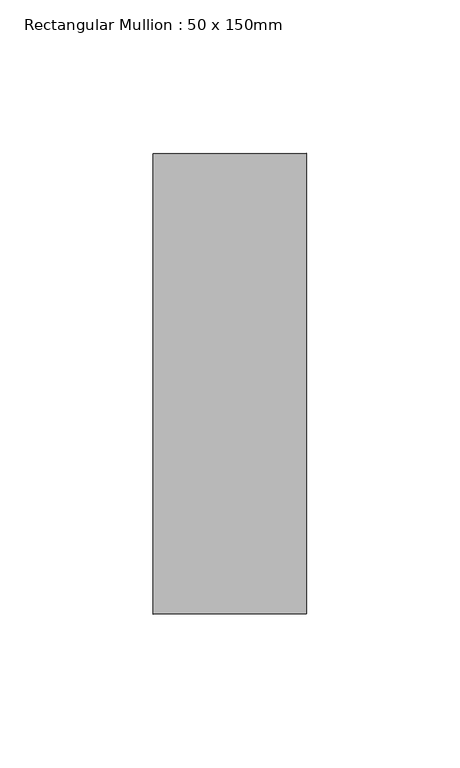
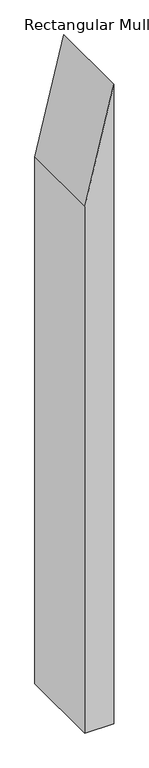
"""IFC4 building model written with IfcOpenShell, lengths in millimetres: member geometry, Rectangular Mullion : 50 x 150mm."""

import ifcopenshell
import ifcopenshell.guid

model = None  # the IFC model being written
_history = None  # IfcOwnerHistory: only IFC2X3 demands one
_inside = {}  # id of a spatial element -> (the spatial element, [elements in it])
_under = {}  # id of a project, library or spatial element -> (it, [spatial elements below it])
_declared = {}  # id of a project -> (the project, [libraries it declares])
_typed = {}  # id of a type object -> (the type object, [elements of that type])
_made_of = {}  # id of a material, layer set ... -> (it, [elements and type objects made of it])


def new_model(schema):
    """Start an empty IFC model of exactly this schema.

    Asked for "IFC4X3", IfcOpenShell would pick the latest addendum, in which some entities
    have other attributes; the version numbers below select the first issue.
    IFC2X3 requires an IfcOwnerHistory on every rooted entity: one is made here for all.
    """
    global model, _history
    if schema == "IFC4X3":
        model = ifcopenshell.file(schema_version=(4, 3, 0, 0))
    else:
        model = ifcopenshell.file(schema=schema)
    _inside.clear()
    _under.clear()
    _declared.clear()
    _typed.clear()
    _made_of.clear()
    _history = None
    if model.schema == "IFC2X3":
        org = make("IfcOrganization", Name="unknown")
        user = make(
            "IfcPersonAndOrganization",
            ThePerson=make("IfcPerson", FamilyName="unknown"),
            TheOrganization=org,
        )
        app = make(
            "IfcApplication",
            ApplicationDeveloper=org,
            Version="unknown",
            ApplicationFullName="unknown",
            ApplicationIdentifier="unknown",
        )
        _history = make(
            "IfcOwnerHistory",
            OwningUser=user,
            OwningApplication=app,
            ChangeAction="ADDED",
            CreationDate=0,
        )
    return model


def make(cls, **values):
    """One entity of the class cls with the attributes given. An attribute that is None is left unset."""
    return model.create_entity(
        cls, **{name: value for name, value in values.items() if value is not None}
    )


def rooted(cls, **values):
    """An entity with a GlobalId (a new one), such as an element, a storey or a relation."""
    return make(cls, GlobalId=ifcopenshell.guid.new(), OwnerHistory=_history, **values)


def si_unit(unit_type, name, prefix=None):
    """IfcSIUnit, for example si_unit("LENGTHUNIT", "METRE", prefix="MILLI")."""
    return make("IfcSIUnit", UnitType=unit_type, Prefix=prefix, Name=name)


def assignment(units):
    """IfcUnitAssignment: the units of a project."""
    return None if units is None else make("IfcUnitAssignment", Units=units)


def point(xyz):
    """IfcCartesianPoint."""
    return None if xyz is None else make("IfcCartesianPoint", Coordinates=xyz)


def direction(xyz):
    """IfcDirection."""
    return None if xyz is None else make("IfcDirection", DirectionRatios=xyz)


def frame(location, z_axis=None, x_axis=None):
    """IfcAxis2Placement3D, a coordinate frame: its origin and axes. An axis left out is left unset."""
    return make(
        "IfcAxis2Placement3D",
        Location=point(location),
        Axis=direction(z_axis),
        RefDirection=direction(x_axis),
    )


def origin():
    """The frame at (0, 0, 0) with its axes left unset."""
    return frame((0.0, 0.0, 0.0))


def place(relative_to, where):
    """IfcLocalPlacement: puts the frame where relative to a parent placement (None: the world)."""
    return make(
        "IfcLocalPlacement", PlacementRelTo=relative_to, RelativePlacement=where
    )


def context(
    kind, dimensions, precision=None, world=None, true_north=None, identifier=None
):
    """IfcGeometricRepresentationContext, for example the 3D "Model" context."""
    return make(
        "IfcGeometricRepresentationContext",
        ContextIdentifier=identifier,
        ContextType=kind,
        CoordinateSpaceDimension=dimensions,
        Precision=precision,
        WorldCoordinateSystem=world,
        TrueNorth=true_north,
    )


def project(units=None, contexts=None):
    """IfcProject with its units and contexts."""
    return rooted(
        "IfcProject",
        Name="project",
        RepresentationContexts=contexts,
        UnitsInContext=assignment(units),
    )


def spatial(cls, under=None, at=None, **own):
    """A site, building, storey or space (cls), placed at a placement, below another one or the project."""
    s = rooted(cls, ObjectPlacement=at, **own)
    if under is not None:
        _under.setdefault(under.id(), (under, []))[1].append(s)
    return s


def polyline(points):
    """IfcPolyline through the points."""
    return make("IfcPolyline", Points=[point(p) for p in points])


def outline(outer, holes=None, kind="AREA"):
    """IfcArbitraryClosedProfileDef: a profile drawn as a closed curve; with holes, ...WithVoids."""
    if holes is None:
        return make("IfcArbitraryClosedProfileDef", ProfileType=kind, OuterCurve=outer)
    return make(
        "IfcArbitraryProfileDefWithVoids",
        ProfileType=kind,
        OuterCurve=outer,
        InnerCurves=holes,
    )


def extrude(swept, where, along, depth):
    """IfcExtrudedAreaSolid: the profile swept, set in the frame where, extruded along a direction by depth."""
    return make(
        "IfcExtrudedAreaSolid",
        SweptArea=swept,
        Position=where,
        ExtrudedDirection=direction(along),
        Depth=depth,
    )


def shape(context_of_items, identifier, shape_type, items):
    """IfcShapeRepresentation: the items that make up one representation, for example the "Body"."""
    return make(
        "IfcShapeRepresentation",
        ContextOfItems=context_of_items,
        RepresentationIdentifier=identifier,
        RepresentationType=shape_type,
        Items=items,
    )


def source(mapping_origin, context_of_items, identifier, shape_type, items):
    """IfcRepresentationMap: a shape defined once, which mapped items show again and again."""
    return make(
        "IfcRepresentationMap",
        MappingOrigin=mapping_origin,
        MappedRepresentation=shape(context_of_items, identifier, shape_type, items),
    )


def transform(
    local_origin,
    x_axis=None,
    y_axis=None,
    z_axis=None,
    scale=None,
    scale2=None,
    scale3=None,
    uniform=True,
):
    """IfcCartesianTransformationOperator3D, or its non-uniform kind. x_axis, y_axis, z_axis: its Axis1, 2, 3."""
    if uniform:
        return make(
            "IfcCartesianTransformationOperator3D",
            Axis1=direction(x_axis),
            Axis2=direction(y_axis),
            LocalOrigin=point(local_origin),
            Scale=scale,
            Axis3=direction(z_axis),
        )
    return make(
        "IfcCartesianTransformationOperator3DnonUniform",
        Axis1=direction(x_axis),
        Axis2=direction(y_axis),
        LocalOrigin=point(local_origin),
        Scale=scale,
        Axis3=direction(z_axis),
        Scale2=scale2,
        Scale3=scale3,
    )


def mapped(mapping_source, mapping_target):
    """IfcMappedItem: shows the shape of a source again, moved by a transform."""
    return make(
        "IfcMappedItem", MappingSource=mapping_source, MappingTarget=mapping_target
    )


def made_of(thing, what):
    """Note that an element or type object is made of a material, layer set ...; save() writes the relation."""
    if what is not None:
        _made_of.setdefault(what.id(), (what, []))[1].append(thing)
    return thing


def element(
    cls,
    number,
    at=None,
    inside=None,
    cuts=None,
    type_object=None,
    material=None,
    context=None,
    identifier="Body",
    shape_type=None,
    held_by="IfcProductDefinitionShape",
    body=None,
    shapes=None,
    **own,
):
    """One element of the class cls, such as IfcWall. Its Tag is "e" and its number.

    at: its placement. inside: the storey or other place that contains it. cuts: it is an
    opening in that element (IfcRelVoidsElement). A single representation is given by context,
    identifier, shape_type and body (its items); several are given by shapes. held_by: the class
    of the entity that holds the representations. save() writes the other relations.
    """
    e = rooted(cls, Tag="e%d" % number, ObjectPlacement=at, **own)
    if body is not None:
        shapes = [shape(context, identifier, shape_type, body)]
    if shapes is not None:
        e.Representation = make(held_by, Representations=shapes)
    if inside is not None:
        _inside.setdefault(inside.id(), (inside, []))[1].append(e)
    if cuts is not None:
        rooted(
            "IfcRelVoidsElement", RelatingBuildingElement=cuts, RelatedOpeningElement=e
        )
    if type_object is not None:
        _typed.setdefault(type_object.id(), (type_object, []))[1].append(e)
    return made_of(e, material)


def aggregate(whole, parts):
    """IfcRelAggregates: a whole, such as a stair, and the parts it consists of."""
    return rooted("IfcRelAggregates", RelatingObject=whole, RelatedObjects=parts)


def save(model, path):
    """Write the relations noted so far, then the file.

    IfcRelAggregates (storeys below a building ...), IfcRelContainedInSpatialStructure (elements
    in a storey), IfcRelDefinesByType, IfcRelAssociatesMaterial and IfcRelDeclares: one each for
    every whole, place, type object, material and project.
    """
    for whole, parts in _under.values():
        aggregate(whole, parts)
    for where, things in _inside.values():
        rooted(
            "IfcRelContainedInSpatialStructure",
            RelatedElements=things,
            RelatingStructure=where,
        )
    for kind, things in _typed.values():
        rooted("IfcRelDefinesByType", RelatedObjects=things, RelatingType=kind)
    for what, things in _made_of.values():
        rooted("IfcRelAssociatesMaterial", RelatedObjects=things, RelatingMaterial=what)
    for by, libraries in _declared.values():
        rooted("IfcRelDeclares", RelatingContext=by, RelatedDefinitions=libraries)
    model.write(path)


def rectangular_mullion_50_x_150mm_ba0926fd(model_context):
    return source(origin(), model_context, "Body", "SweptSolid", [
        extrude(outline(polyline([(-109.4367532, 25.0), (-316.4022366, -25.0), (-1282.1043265, -25.0), (-1282.1043265, 25.0), (-109.4367532, 25.0)])), frame((0.0, -75.0, 0.0), z_axis=(0.0, 1.0, 0.0), x_axis=(0.0, 0.0, 1.0)), (0.0, 0.0, 1.0), 150.0),
    ])


if __name__ == "__main__":
    model = new_model("IFC4")
    model_context = context("Model", 3, world=origin())
    ifc_project = project(units=[si_unit("LENGTHUNIT", "METRE", prefix="MILLI")], contexts=[model_context])
    site = spatial("IfcSite", under=ifc_project)
    building = spatial("IfcBuilding", under=site)
    placement = place(None, origin())
    rectangular_mullion_50_x_150mm_shape = rectangular_mullion_50_x_150mm_ba0926fd(model_context)
    element("IfcMember", 1, ObjectType="Rectangular Mullion : 50 x 150mm", at=placement, inside=building, context=model_context, shape_type="MappedRepresentation", body=[
        mapped(rectangular_mullion_50_x_150mm_shape, transform((0.0, 0.0, 0.0), x_axis=(1.0, 0.0, 0.0), y_axis=(0.0, 1.0, 0.0), z_axis=(0.0, 0.0, 1.0))),
    ])
    save(model, "model.ifc")
